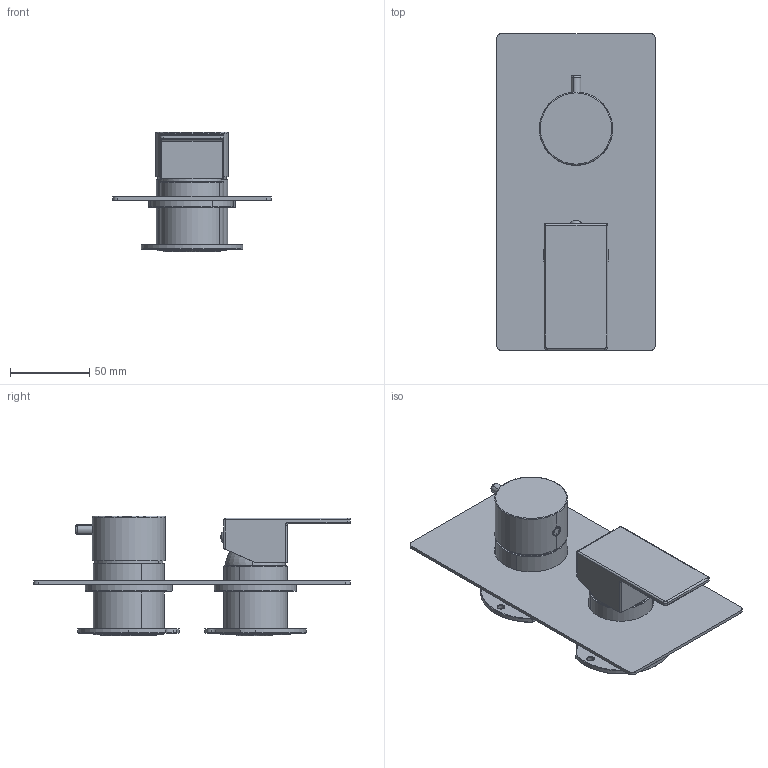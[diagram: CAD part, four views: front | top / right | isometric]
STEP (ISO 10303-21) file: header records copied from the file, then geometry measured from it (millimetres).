
FILE_DESCRIPTION (( 'STEP AP203' ), '1' );
FILE_NAME ('EMF3.STEP', '2024-01-31T08:32:31', ( '' ), ( '' ), 'SwSTEP 2.0', 'SolidWorks 2023', '' );
FILE_SCHEMA (( 'CONFIG_CONTROL_DESIGN' ));
Length unit declared in the file: millimetre
Products named in the file (27): C47.00.0016; C25.2055.00.0; C47.00.0023.01; C31.00.0006.01; C24.1835.00.0; C10.00.0005; C24.1837.00.0; EMF3; C24.2156.00.0; C24.1967.00.0; C18.14.0006; AS1080; AS746_01; C12.00.0058; C11.10.0045; C24.1830.00.0; C25.1355.00.0; AS745_00; AS747_00; C11.14.0009; C10.00.0015; C24.1836.00.1; C47.00.0015; C24.1831.00.0; C25.2056.00.0; C12.00.0057; C25.2694.00
Assembly tree (26 placements, depth 4):
  EMF3
    AS1080
      C25.2694.00
      C25.2055.00.0
      C25.2056.00.0
    AS745_00
      C24.1831.00.0
      C24.1836.00.1
      C10.00.0005
      C47.00.0016
      C24.1967.00.0
      C12.00.0058
      AS746_01
        C24.1835.00.0
        C24.2156.00.0
        C11.14.0009
        C25.1355.00.0
        C47.00.0023.01
        C11.10.0045
    AS747_00
      C47.00.0015
      C10.00.0015
      C24.1830.00.0
      C12.00.0057
      C24.1837.00.0
      C31.00.0006.01
    C18.14.0006
Bounding box: 100 x 200 x 75.5 mm (x, y, z)
Volume: 211174.1 mm3; surface area: 144653.8 mm2
Topology: 26 solids, 26 shells, 1019 faces, 2390 edges, 1478 vertices
Faces by surface type: cylinder 417, plane 285, cone 167, bspline 116, torus 32, sphere 2
Entity records: 34885 total; most frequent: CARTESIAN_POINT 8514, DIRECTION 5221, ORIENTED_EDGE 4756, EDGE_CURVE 2378, AXIS2_PLACEMENT_3D 2109, VERTEX_POINT 1478, CIRCLE 1173, EDGE_LOOP 1170
